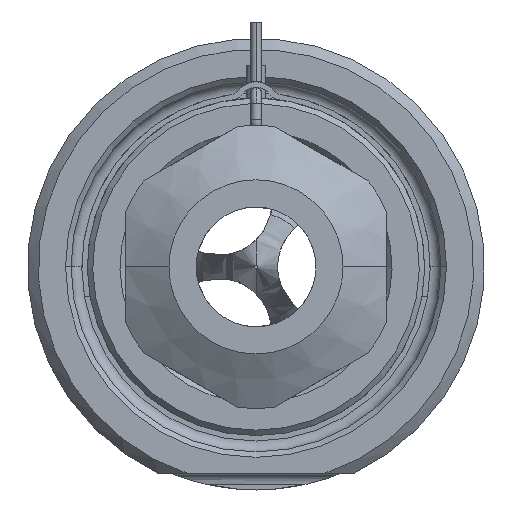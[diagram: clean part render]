
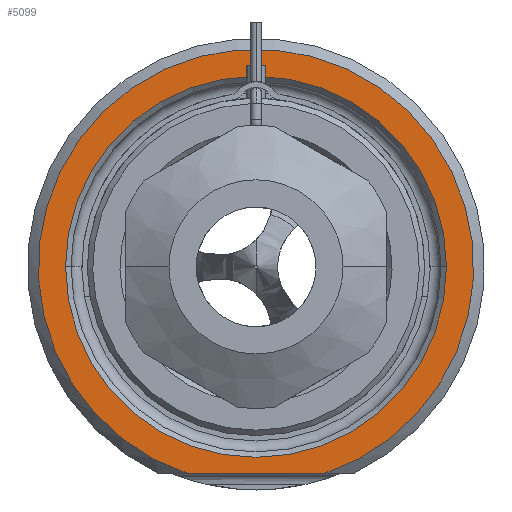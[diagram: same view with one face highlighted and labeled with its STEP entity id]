
A CAD part, front view. The second image highlights one B-rep face of the part: STEP entity #5099.
In plain terms, the highlighted planar face has unit normal (0, -1, 0).
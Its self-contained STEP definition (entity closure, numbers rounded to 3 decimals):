
#1297=CARTESIAN_POINT('',(0.,0.,0.));
#1298=DIRECTION('',(0.,-1.,0.));
#1299=DIRECTION('',(0.312,0.,-0.95));
#1300=AXIS2_PLACEMENT_3D('',#1297,#1298,#1299);
#1321=DIRECTION('',(1.,0.,0.));
#1322=VECTOR('',#1321,12.49);
#1323=CARTESIAN_POINT('',(-6.245,0.,-19.));
#1324=LINE('',#1323,#1322);
#1325=CARTESIAN_POINT('',(0.,0.,0.));
#1326=DIRECTION('',(0.,1.,0.));
#1327=DIRECTION('',(-1.,0.,0.));
#1328=AXIS2_PLACEMENT_3D('',#1325,#1326,#1327);
#1330=CARTESIAN_POINT('',(0.,0.,0.));
#1331=DIRECTION('',(0.,1.,0.));
#1332=DIRECTION('',(1.,0.,0.));
#1333=AXIS2_PLACEMENT_3D('',#1330,#1331,#1332);
#3358=CARTESIAN_POINT('',(-17.5,0.,0.));
#3359=CARTESIAN_POINT('',(17.5,0.,0.));
#3360=VERTEX_POINT('',#3358);
#3361=VERTEX_POINT('',#3359);
#3402=CARTESIAN_POINT('',(-6.245,0.,-19.));
#3403=CARTESIAN_POINT('',(6.245,0.,-19.));
#3404=VERTEX_POINT('',#3402);
#3405=VERTEX_POINT('',#3403);
#5084=CARTESIAN_POINT('',(0.,0.,0.));
#5085=DIRECTION('',(0.,-1.,0.));
#5086=DIRECTION('',(1.,0.,0.));
#5087=AXIS2_PLACEMENT_3D('',#5084,#5085,#5086);
#5088=PLANE('',#5087);
#5089=ORIENTED_EDGE('',*,*,#5016,.F.);
#5090=ORIENTED_EDGE('',*,*,#5076,.F.);
#5091=EDGE_LOOP('',(#5089,#5090));
#5092=FACE_OUTER_BOUND('',#5091,.F.);
#5094=ORIENTED_EDGE('',*,*,#5093,.F.);
#5096=ORIENTED_EDGE('',*,*,#5095,.F.);
#5097=EDGE_LOOP('',(#5094,#5096));
#5098=FACE_BOUND('',#5097,.F.);
#5099=ADVANCED_FACE('',(#5092,#5098),#5088,.T.);
#1301=CIRCLE('',#1300,20.);
#1329=CIRCLE('',#1328,17.5);
#1334=CIRCLE('',#1333,17.5);
#5016=EDGE_CURVE('',#3404,#3405,#1324,.T.);
#5076=EDGE_CURVE('',#3405,#3404,#1301,.T.);
#5093=EDGE_CURVE('',#3360,#3361,#1329,.T.);
#5095=EDGE_CURVE('',#3361,#3360,#1334,.T.);
